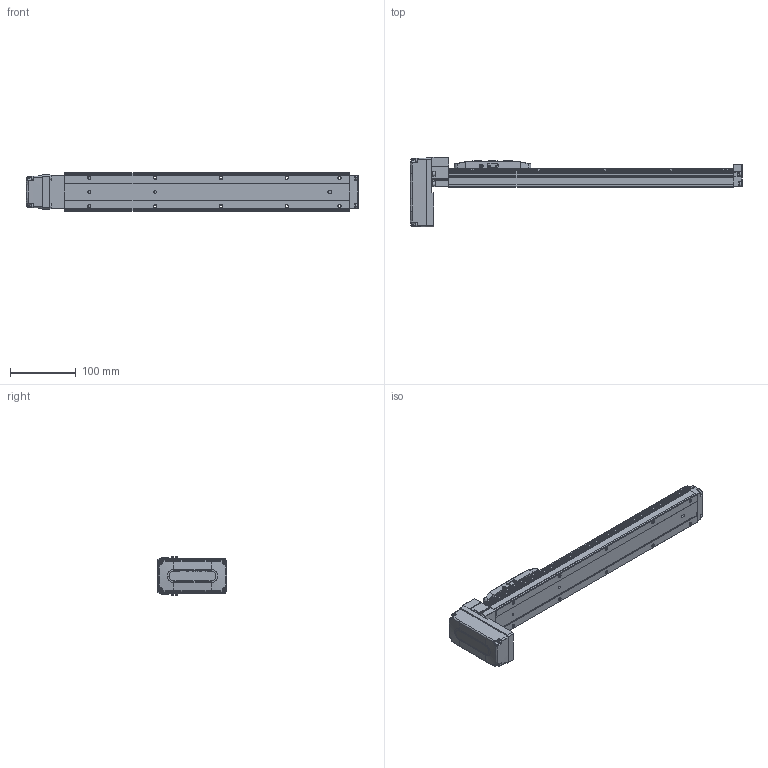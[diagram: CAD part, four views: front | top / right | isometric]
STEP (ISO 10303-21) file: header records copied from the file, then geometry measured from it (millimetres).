
FILE_DESCRIPTION (( 'STEP AP203' ), '1' );
FILE_NAME ('EFS-05D_MY.STEP', '2025-07-17T05:31:11', ( '' ), ( '' ), 'SwSTEP 2.0', 'SolidWorks 2024', '' );
FILE_SCHEMA (( 'CONFIG_CONTROL_DESIGN' ));
Length unit declared in the file: millimetre
Products named in the file (1): EFS-05D_MY
Bounding box: 504 x 106.07 x 58 mm (x, y, z)
Volume: 890354.6 mm3; surface area: 171555.3 mm2
Topology: 22 solids, 22 shells, 1388 faces, 3523 edges, 2189 vertices
Faces by surface type: plane 587, cylinder 490, cone 116, torus 88, bspline 81, sphere 26
Entity records: 44793 total; most frequent: CARTESIAN_POINT 12221, ORIENTED_EDGE 6950, DIRECTION 6574, EDGE_CURVE 3475, AXIS2_PLACEMENT_3D 2361, VERTEX_POINT 2189, VECTOR 1852, LINE 1852
